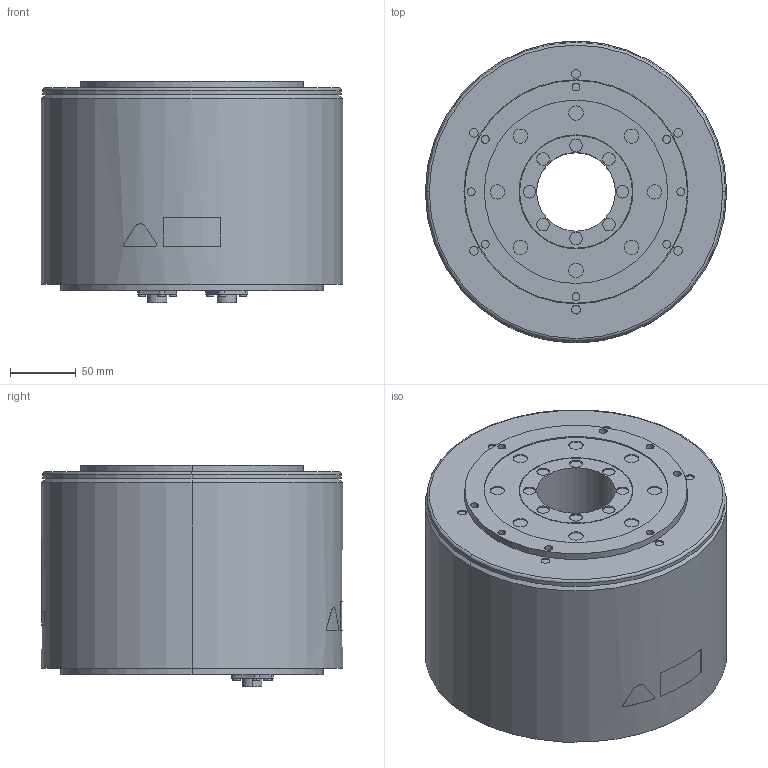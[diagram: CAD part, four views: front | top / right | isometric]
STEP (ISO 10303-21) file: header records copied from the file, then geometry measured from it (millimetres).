
FILE_DESCRIPTION (( 'STEP AP203' ), '1' );
FILE_NAME ('sgm7e_25d_a1_.STEP', '2016-06-02T07:15:33', ( '' ), ( '' ), 'SwSTEP 2.0', 'SolidWorks 2010', '' );
FILE_SCHEMA (( 'CONFIG_CONTROL_DESIGN' ));
Length unit declared in the file: millimetre
Products named in the file (1): sgm7e_25d_a1_
Bounding box: 230 x 230 x 169.1 mm (x, y, z)
Volume: 6024066.2 mm3; surface area: 230161.7 mm2
Topology: 1 solids, 1 shells, 336 faces, 730 edges, 484 vertices
Faces by surface type: cylinder 189, plane 136, bspline 5, cone 4, torus 2
Entity records: 9809 total; most frequent: CARTESIAN_POINT 1984, DIRECTION 1778, ORIENTED_EDGE 1460, AXIS2_PLACEMENT_3D 732, EDGE_CURVE 730, VERTEX_POINT 484, EDGE_LOOP 426, CIRCLE 400
